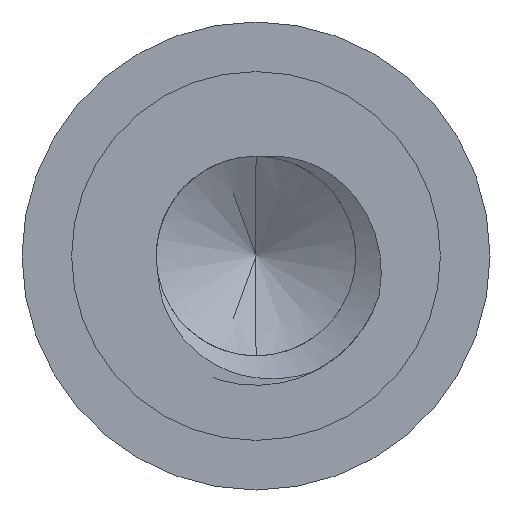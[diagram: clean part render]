
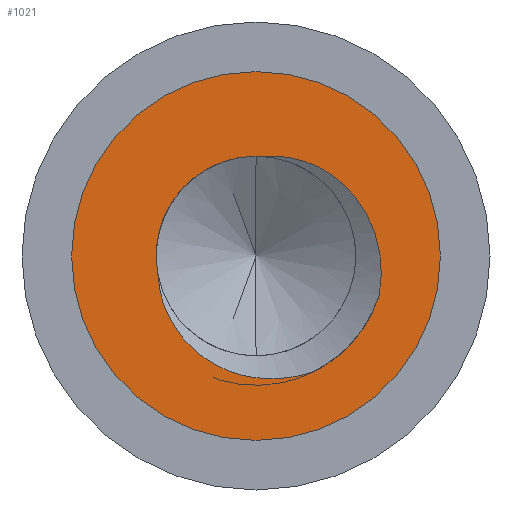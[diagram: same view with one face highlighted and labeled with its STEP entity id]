
A CAD part, front view. The second image highlights one B-rep face of the part: STEP entity #1021.
In plain terms, the highlighted planar face has unit normal (0, -1, 0).
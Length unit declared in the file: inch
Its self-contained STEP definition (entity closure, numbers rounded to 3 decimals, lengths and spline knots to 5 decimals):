
#42 = FACE_OUTER_BOUND ( 'NONE', #4077, .T. ) ;
#240 = ORIENTED_EDGE ( 'NONE', *, *, #3138, .F. ) ;
#305 = CARTESIAN_POINT ( 'NONE',  ( 0., 0., 0. ) ) ;
#370 = CARTESIAN_POINT ( 'NONE',  ( 0.06274, 0., 0.01587 ) ) ;
#391 = EDGE_CURVE ( 'NONE', #423, #411, #1283, .T. ) ;
#411 = VERTEX_POINT ( 'NONE', #5557 ) ;
#423 = VERTEX_POINT ( 'NONE', #1450 ) ;
#449 = ORIENTED_EDGE ( 'NONE', *, *, #5759, .F. ) ;
#587 = CARTESIAN_POINT ( 'NONE',  ( -0.00609, 0., -0.06411 ) ) ;
#636 = CARTESIAN_POINT ( 'NONE',  ( 0.02228, 0., -0.06469 ) ) ;
#722 = CARTESIAN_POINT ( 'NONE',  ( 0., 0., 0. ) ) ;
#802 = CARTESIAN_POINT ( 'NONE',  ( 0., 0., 0. ) ) ;
#1021 = ADVANCED_FACE ( 'NONE', ( #42, #3134 ), #2219, .F. ) ;
#1042 = VERTEX_POINT ( 'NONE', #4113 ) ;
#1060 = CARTESIAN_POINT ( 'NONE',  ( -0.03161, 0., -0.05219 ) ) ;
#1188 = ORIENTED_EDGE ( 'NONE', *, *, #5398, .T. ) ;
#1192 = CIRCLE ( 'NONE', #2695, 0.05325 ) ;
#1283 = CIRCLE ( 'NONE', #2397, 0.069 ) ;
#1336 = DIRECTION ( 'NONE',  ( 0., -1., 0. ) ) ;
#1367 = CARTESIAN_POINT ( 'NONE',  ( 0., 0., 0. ) ) ;
#1401 = CARTESIAN_POINT ( 'NONE',  ( 0.01275, 0., 0.05393 ) ) ;
#1450 = CARTESIAN_POINT ( 'NONE',  ( 0.06575, 0., -0.02093 ) ) ;
#1538 = ORIENTED_EDGE ( 'NONE', *, *, #1805, .T. ) ;
#1729 = DIRECTION ( 'NONE',  ( 0., 0., -1. ) ) ;
#1730 = DIRECTION ( 'NONE',  ( 0., 0., -1. ) ) ;
#1805 = EDGE_CURVE ( 'NONE', #2324, #5315, #2262, .T. ) ;
#1939 = CARTESIAN_POINT ( 'NONE',  ( -0.05114, 0., -0.02014 ) ) ;
#1941 = AXIS2_PLACEMENT_3D ( 'NONE', #305, #3566, #1730 ) ;
#1988 = CARTESIAN_POINT ( 'NONE',  ( -0.04614, 0., -0.03342 ) ) ;
#2219 = PLANE ( 'NONE',  #3916 ) ;
#2262 = CIRCLE ( 'NONE', #2727, 0.09837 ) ;
#2274 = CARTESIAN_POINT ( 'NONE',  ( 0.03916, 0., 0.04442 ) ) ;
#2295 = CARTESIAN_POINT ( 'NONE',  ( 0.06697, 0., -0.01167 ) ) ;
#2308 = CARTESIAN_POINT ( 'NONE',  ( 0.05855, 0., 0.02448 ) ) ;
#2324 = VERTEX_POINT ( 'NONE', #3002 ) ;
#2397 = AXIS2_PLACEMENT_3D ( 'NONE', #3289, #5078, #3754 ) ;
#2453 = CARTESIAN_POINT ( 'NONE',  ( 0.01278, 0., -0.06597 ) ) ;
#2497 = CARTESIAN_POINT ( 'NONE',  ( 0., 0., 0.09837 ) ) ;
#2540 = EDGE_CURVE ( 'NONE', #2641, #5989, #1192, .T. ) ;
#2641 = VERTEX_POINT ( 'NONE', #3115 ) ;
#2644 = CIRCLE ( 'NONE', #1941, 0.05325 ) ;
#2695 = AXIS2_PLACEMENT_3D ( 'NONE', #802, #1336, #1729 ) ;
#2716 = EDGE_LOOP ( 'NONE', ( #449, #4034, #240, #5108, #6022 ) ) ;
#2727 = AXIS2_PLACEMENT_3D ( 'NONE', #5574, #3286, #3404 ) ;
#2832 = CARTESIAN_POINT ( 'NONE',  ( -0.05217, 0., -0.01069 ) ) ;
#3002 = CARTESIAN_POINT ( 'NONE',  ( 0., 0., -0.09837 ) ) ;
#3027 = DIRECTION ( 'NONE',  ( 0., 0., -1. ) ) ;
#3115 = CARTESIAN_POINT ( 'NONE',  ( 0., 0., 0.05325 ) ) ;
#3134 = FACE_BOUND ( 'NONE', #2716, .T. ) ;
#3138 = EDGE_CURVE ( 'NONE', #1042, #2641, #2644, .T. ) ;
#3155 = CIRCLE ( 'NONE', #4747, 0.09837 ) ;
#3163 = CARTESIAN_POINT ( 'NONE',  ( 0.06661, 0., -0.01631 ) ) ;
#3179 = CARTESIAN_POINT ( 'NONE',  ( 0.06575, 0., -0.02093 ) ) ;
#3286 = DIRECTION ( 'NONE',  ( 0., -1., 0. ) ) ;
#3289 = CARTESIAN_POINT ( 'NONE',  ( 0., 0., 0. ) ) ;
#3316 = CARTESIAN_POINT ( 'NONE',  ( -0.05199, 0., -0.01539 ) ) ;
#3404 = DIRECTION ( 'NONE',  ( 0., 0., -1. ) ) ;
#3566 = DIRECTION ( 'NONE',  ( 0., -1., 0. ) ) ;
#3629 = CARTESIAN_POINT ( 'NONE',  ( 0.04657, 0., 0.03872 ) ) ;
#3630 = DIRECTION ( 'NONE',  ( 0., 1., 0. ) ) ;
#3654 = DIRECTION ( 'NONE',  ( 0., 0., 1. ) ) ;
#3754 = DIRECTION ( 'NONE',  ( 0., 0., 1. ) ) ;
#3849 = CARTESIAN_POINT ( 'NONE',  ( -0.00143, 0., -0.06495 ) ) ;
#3916 = AXIS2_PLACEMENT_3D ( 'NONE', #1367, #3630, #3654 ) ;
#4034 = ORIENTED_EDGE ( 'NONE', *, *, #2540, .F. ) ;
#4052 = CARTESIAN_POINT ( 'NONE',  ( -0.05217, 0., -0.01069 ) ) ;
#4077 = EDGE_LOOP ( 'NONE', ( #1538, #1188 ) ) ;
#4113 = CARTESIAN_POINT ( 'NONE',  ( 0.00347, 0., 0.05314 ) ) ;
#4170 = CARTESIAN_POINT ( 'NONE',  ( 0.06671, 0., -0.00239 ) ) ;
#4354 = CARTESIAN_POINT ( 'NONE',  ( -0.03857, 0., -0.04542 ) ) ;
#4399 = B_SPLINE_CURVE_WITH_KNOTS ( 'NONE', 3,
 ( #3179, #3163, #2295, #4170, #4569, #370, #2308, #5520, #3629, #2274, #5032, #6018, #1401, #5502 ),
 .UNSPECIFIED., .F., .F.,
 ( 4, 2, 2, 2, 2, 2, 4 ),
 ( 0., 0.00035, 0.00071, 0.00141, 0.00177, 0.00212, 0.00283 ),
 .UNSPECIFIED. ) ;
#4569 = CARTESIAN_POINT ( 'NONE',  ( 0.06607, 0., 0.00231 ) ) ;
#4747 = AXIS2_PLACEMENT_3D ( 'NONE', #722, #4895, #3027 ) ;
#4812 = B_SPLINE_CURVE_WITH_KNOTS ( 'NONE', 3,
 ( #2832, #3316, #1939, #5247, #1988, #4354, #1060, #5225, #5666, #587, #3849, #2453, #636, #5712 ),
 .UNSPECIFIED., .F., .F.,
 ( 4, 2, 2, 2, 2, 2, 4 ),
 ( 0.00067, 0.00103, 0.00138, 0.0021, 0.00246, 0.00282, 0.00354 ),
 .UNSPECIFIED. ) ;
#4895 = DIRECTION ( 'NONE',  ( 0., -1., 0. ) ) ;
#5018 = EDGE_CURVE ( 'NONE', #423, #1042, #4399, .T. ) ;
#5032 = CARTESIAN_POINT ( 'NONE',  ( 0.03517, 0., 0.04678 ) ) ;
#5078 = DIRECTION ( 'NONE',  ( 0., 1., 0. ) ) ;
#5108 = ORIENTED_EDGE ( 'NONE', *, *, #5018, .F. ) ;
#5225 = CARTESIAN_POINT ( 'NONE',  ( -0.01947, 0., -0.05939 ) ) ;
#5247 = CARTESIAN_POINT ( 'NONE',  ( -0.04822, 0., -0.02911 ) ) ;
#5315 = VERTEX_POINT ( 'NONE', #2497 ) ;
#5398 = EDGE_CURVE ( 'NONE', #5315, #2324, #3155, .T. ) ;
#5502 = CARTESIAN_POINT ( 'NONE',  ( 0.00347, 0., 0.05314 ) ) ;
#5520 = CARTESIAN_POINT ( 'NONE',  ( 0.04993, 0., 0.03538 ) ) ;
#5557 = CARTESIAN_POINT ( 'NONE',  ( 0.03126, 0., -0.06151 ) ) ;
#5574 = CARTESIAN_POINT ( 'NONE',  ( 0., 0., 0. ) ) ;
#5666 = CARTESIAN_POINT ( 'NONE',  ( -0.01507, 0., -0.06134 ) ) ;
#5712 = CARTESIAN_POINT ( 'NONE',  ( 0.03126, 0., -0.06151 ) ) ;
#5759 = EDGE_CURVE ( 'NONE', #5989, #411, #4812, .T. ) ;
#5989 = VERTEX_POINT ( 'NONE', #4052 ) ;
#6018 = CARTESIAN_POINT ( 'NONE',  ( 0.02231, 0., 0.05238 ) ) ;
#6022 = ORIENTED_EDGE ( 'NONE', *, *, #391, .T. ) ;
